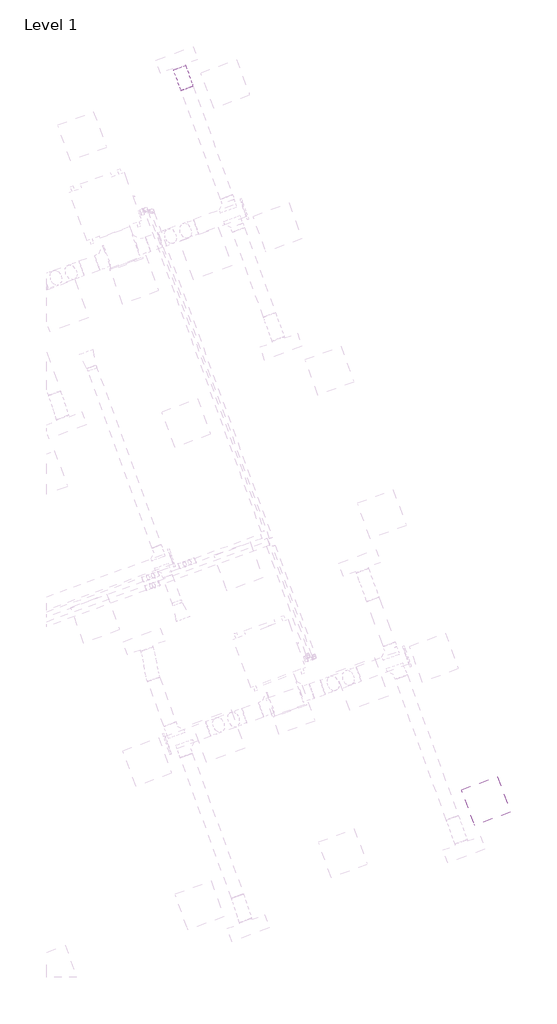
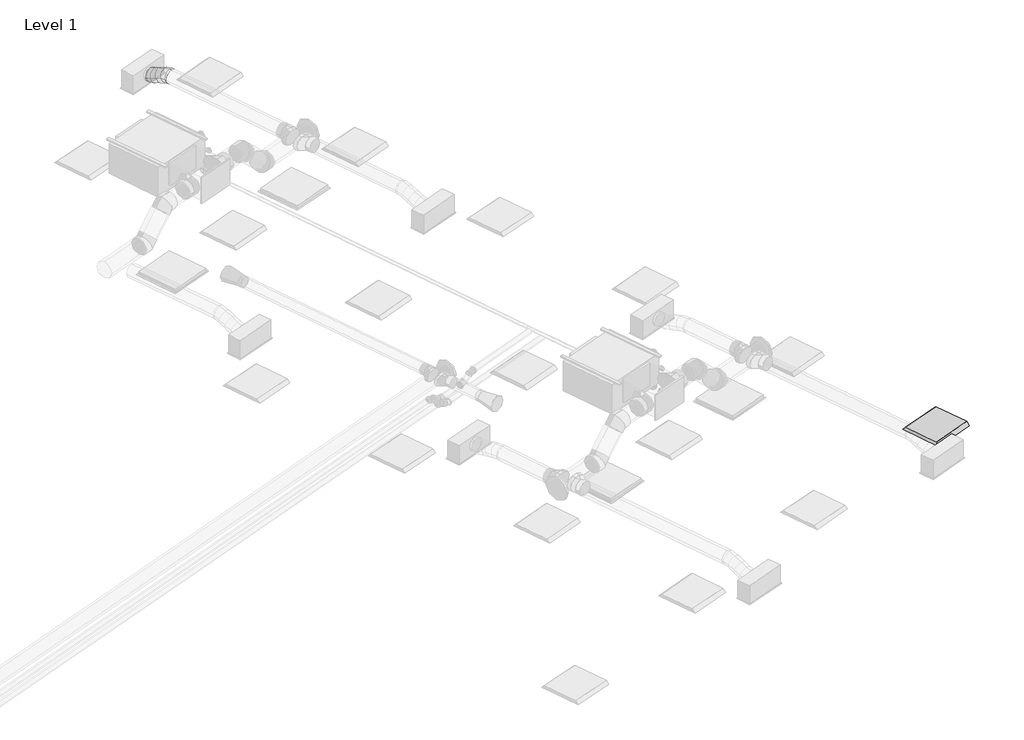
# One storey, part 30 of 30: 1 duct segment, 1 light fixture.
"""IFC4 building model written with IfcOpenShell, lengths in millimetres."""

import ifcopenshell
import ifcopenshell.guid

model = None  # the IFC model being written
_history = None  # IfcOwnerHistory: only IFC2X3 demands one
_inside = {}  # id of a spatial element -> (the spatial element, [elements in it])
_under = {}  # id of a project, library or spatial element -> (it, [spatial elements below it])
_declared = {}  # id of a project -> (the project, [libraries it declares])
_typed = {}  # id of a type object -> (the type object, [elements of that type])
_made_of = {}  # id of a material, layer set ... -> (it, [elements and type objects made of it])


def new_model(schema):
    """Start an empty IFC model of exactly this schema.

    Asked for "IFC4X3", IfcOpenShell would pick the latest addendum, in which some entities
    have other attributes; the version numbers below select the first issue.
    IFC2X3 requires an IfcOwnerHistory on every rooted entity: one is made here for all.
    """
    global model, _history
    if schema == "IFC4X3":
        model = ifcopenshell.file(schema_version=(4, 3, 0, 0))
    else:
        model = ifcopenshell.file(schema=schema)
    _inside.clear()
    _under.clear()
    _declared.clear()
    _typed.clear()
    _made_of.clear()
    _history = None
    if model.schema == "IFC2X3":
        org = make("IfcOrganization", Name="unknown")
        user = make(
            "IfcPersonAndOrganization",
            ThePerson=make("IfcPerson", FamilyName="unknown"),
            TheOrganization=org,
        )
        app = make(
            "IfcApplication",
            ApplicationDeveloper=org,
            Version="unknown",
            ApplicationFullName="unknown",
            ApplicationIdentifier="unknown",
        )
        _history = make(
            "IfcOwnerHistory",
            OwningUser=user,
            OwningApplication=app,
            ChangeAction="ADDED",
            CreationDate=0,
        )
    return model


def make(cls, **values):
    """One entity of the class cls with the attributes given. An attribute that is None is left unset."""
    return model.create_entity(
        cls, **{name: value for name, value in values.items() if value is not None}
    )


def rooted(cls, **values):
    """An entity with a GlobalId (a new one), such as an element, a storey or a relation."""
    return make(cls, GlobalId=ifcopenshell.guid.new(), OwnerHistory=_history, **values)


def si_unit(unit_type, name, prefix=None):
    """IfcSIUnit, for example si_unit("LENGTHUNIT", "METRE", prefix="MILLI")."""
    return make("IfcSIUnit", UnitType=unit_type, Prefix=prefix, Name=name)


def assignment(units):
    """IfcUnitAssignment: the units of a project."""
    return None if units is None else make("IfcUnitAssignment", Units=units)


def point(xyz):
    """IfcCartesianPoint."""
    return None if xyz is None else make("IfcCartesianPoint", Coordinates=xyz)


def direction(xyz):
    """IfcDirection."""
    return None if xyz is None else make("IfcDirection", DirectionRatios=xyz)


def frame(location, z_axis=None, x_axis=None):
    """IfcAxis2Placement3D, a coordinate frame: its origin and axes. An axis left out is left unset."""
    return make(
        "IfcAxis2Placement3D",
        Location=point(location),
        Axis=direction(z_axis),
        RefDirection=direction(x_axis),
    )


def origin():
    """The frame at (0, 0, 0) with its axes left unset."""
    return frame((0.0, 0.0, 0.0))


def place(relative_to, where):
    """IfcLocalPlacement: puts the frame where relative to a parent placement (None: the world)."""
    return make(
        "IfcLocalPlacement", PlacementRelTo=relative_to, RelativePlacement=where
    )


def context(
    kind, dimensions, precision=None, world=None, true_north=None, identifier=None
):
    """IfcGeometricRepresentationContext, for example the 3D "Model" context."""
    return make(
        "IfcGeometricRepresentationContext",
        ContextIdentifier=identifier,
        ContextType=kind,
        CoordinateSpaceDimension=dimensions,
        Precision=precision,
        WorldCoordinateSystem=world,
        TrueNorth=true_north,
    )


def project(units=None, contexts=None):
    """IfcProject with its units and contexts."""
    return rooted(
        "IfcProject",
        Name="project",
        RepresentationContexts=contexts,
        UnitsInContext=assignment(units),
    )


def spatial(cls, under=None, at=None, **own):
    """A site, building, storey or space (cls), placed at a placement, below another one or the project."""
    s = rooted(cls, ObjectPlacement=at, **own)
    if under is not None:
        _under.setdefault(under.id(), (under, []))[1].append(s)
    return s


def polyline(points):
    """IfcPolyline through the points."""
    return make("IfcPolyline", Points=[point(p) for p in points])


def circle_curve(where, radius):
    """IfcCircle in the frame where."""
    return make("IfcCircle", Position=where, Radius=radius)


def ellipse_curve(where, semi_axis1, semi_axis2):
    """IfcEllipse in the frame where."""
    return make(
        "IfcEllipse", Position=where, SemiAxis1=semi_axis1, SemiAxis2=semi_axis2
    )


def outline(outer, holes=None, kind="AREA"):
    """IfcArbitraryClosedProfileDef: a profile drawn as a closed curve; with holes, ...WithVoids."""
    if holes is None:
        return make("IfcArbitraryClosedProfileDef", ProfileType=kind, OuterCurve=outer)
    return make(
        "IfcArbitraryProfileDefWithVoids",
        ProfileType=kind,
        OuterCurve=outer,
        InnerCurves=holes,
    )


def extrude(swept, where, along, depth):
    """IfcExtrudedAreaSolid: the profile swept, set in the frame where, extruded along a direction by depth."""
    return make(
        "IfcExtrudedAreaSolid",
        SweptArea=swept,
        Position=where,
        ExtrudedDirection=direction(along),
        Depth=depth,
    )


def shape(context_of_items, identifier, shape_type, items):
    """IfcShapeRepresentation: the items that make up one representation, for example the "Body"."""
    return make(
        "IfcShapeRepresentation",
        ContextOfItems=context_of_items,
        RepresentationIdentifier=identifier,
        RepresentationType=shape_type,
        Items=items,
    )


def source(mapping_origin, context_of_items, identifier, shape_type, items):
    """IfcRepresentationMap: a shape defined once, which mapped items show again and again."""
    return make(
        "IfcRepresentationMap",
        MappingOrigin=mapping_origin,
        MappedRepresentation=shape(context_of_items, identifier, shape_type, items),
    )


def transform(
    local_origin,
    x_axis=None,
    y_axis=None,
    z_axis=None,
    scale=None,
    scale2=None,
    scale3=None,
    uniform=True,
):
    """IfcCartesianTransformationOperator3D, or its non-uniform kind. x_axis, y_axis, z_axis: its Axis1, 2, 3."""
    if uniform:
        return make(
            "IfcCartesianTransformationOperator3D",
            Axis1=direction(x_axis),
            Axis2=direction(y_axis),
            LocalOrigin=point(local_origin),
            Scale=scale,
            Axis3=direction(z_axis),
        )
    return make(
        "IfcCartesianTransformationOperator3DnonUniform",
        Axis1=direction(x_axis),
        Axis2=direction(y_axis),
        LocalOrigin=point(local_origin),
        Scale=scale,
        Axis3=direction(z_axis),
        Scale2=scale2,
        Scale3=scale3,
    )


def mapped(mapping_source, mapping_target):
    """IfcMappedItem: shows the shape of a source again, moved by a transform."""
    return make(
        "IfcMappedItem", MappingSource=mapping_source, MappingTarget=mapping_target
    )


def made_of(thing, what):
    """Note that an element or type object is made of a material, layer set ...; save() writes the relation."""
    if what is not None:
        _made_of.setdefault(what.id(), (what, []))[1].append(thing)
    return thing


def element(
    cls,
    number,
    at=None,
    inside=None,
    cuts=None,
    type_object=None,
    material=None,
    context=None,
    identifier="Body",
    shape_type=None,
    held_by="IfcProductDefinitionShape",
    body=None,
    shapes=None,
    **own,
):
    """One element of the class cls, such as IfcWall. Its Tag is "e" and its number.

    at: its placement. inside: the storey or other place that contains it. cuts: it is an
    opening in that element (IfcRelVoidsElement). A single representation is given by context,
    identifier, shape_type and body (its items); several are given by shapes. held_by: the class
    of the entity that holds the representations. save() writes the other relations.
    """
    e = rooted(cls, Tag="e%d" % number, ObjectPlacement=at, **own)
    if body is not None:
        shapes = [shape(context, identifier, shape_type, body)]
    if shapes is not None:
        e.Representation = make(held_by, Representations=shapes)
    if inside is not None:
        _inside.setdefault(inside.id(), (inside, []))[1].append(e)
    if cuts is not None:
        rooted(
            "IfcRelVoidsElement", RelatingBuildingElement=cuts, RelatedOpeningElement=e
        )
    if type_object is not None:
        _typed.setdefault(type_object.id(), (type_object, []))[1].append(e)
    return made_of(e, material)


def aggregate(whole, parts):
    """IfcRelAggregates: a whole, such as a stair, and the parts it consists of."""
    return rooted("IfcRelAggregates", RelatingObject=whole, RelatedObjects=parts)


def save(model, path):
    """Write the relations noted so far, then the file.

    IfcRelAggregates (storeys below a building ...), IfcRelContainedInSpatialStructure (elements
    in a storey), IfcRelDefinesByType, IfcRelAssociatesMaterial and IfcRelDeclares: one each for
    every whole, place, type object, material and project.
    """
    for whole, parts in _under.values():
        aggregate(whole, parts)
    for where, things in _inside.values():
        rooted(
            "IfcRelContainedInSpatialStructure",
            RelatedElements=things,
            RelatingStructure=where,
        )
    for kind, things in _typed.values():
        rooted("IfcRelDefinesByType", RelatedObjects=things, RelatingType=kind)
    for what, things in _made_of.values():
        rooted("IfcRelAssociatesMaterial", RelatedObjects=things, RelatingMaterial=what)
    for by, libraries in _declared.values():
        rooted("IfcRelDeclares", RelatingContext=by, RelatedDefinitions=libraries)
    model.write(path)


def plane_surface(at):
    """IfcPlane: the flat surface through the origin of the frame at, square to its z axis."""
    return make("IfcPlane", Position=at)


def cylinder_surface(at, radius):
    """IfcCylindricalSurface: all points at the distance radius from the z axis of the frame at."""
    return make("IfcCylindricalSurface", Position=at, Radius=radius)


def advanced_brep(points, edges, surfaces, faces):
    """IfcAdvancedBrep: a solid bounded by faces that lie on surfaces and meet in shared edges.

    An edge is (start, end): straight between two places in points (the first is 0);
    or (start, end, curve); or (start, end, curve, False) where it runs against its curve.
    A face is (place in surfaces, loops), or (place, loops, False) where it looks against
    its surface's normal. A loop lists edges by number (the first is 1), with a minus sign
    where the edge is run from its end to its start. The first loop is the outer one.
    """
    corners = [point(p) for p in points]
    vertices = [make("IfcVertexPoint", VertexGeometry=c) for c in corners]
    made = []
    for start, end, *more in edges:
        made.append(
            make(
                "IfcEdgeCurve",
                EdgeStart=vertices[start],
                EdgeEnd=vertices[end],
                EdgeGeometry=more[0] if more else make("IfcPolyline", Points=[corners[start], corners[end]]),
                SameSense=more[1] if len(more) > 1 else True,
            )
        )
    hull = []
    for where, loops, *sense in faces:
        bounds = []
        for j, loop in enumerate(loops):
            ring = [make("IfcOrientedEdge", EdgeElement=made[abs(k) - 1], Orientation=k > 0) for k in loop]
            bounds.append(
                make(
                    "IfcFaceOuterBound" if j == 0 else "IfcFaceBound",
                    Bound=make("IfcEdgeLoop", EdgeList=ring),
                    Orientation=True,
                )
            )
        hull.append(make("IfcAdvancedFace", Bounds=bounds, FaceSurface=surfaces[where], SameSense=sense[0] if sense else True))
    return make("IfcAdvancedBrep", Outer=make("IfcClosedShell", CfsFaces=hull))


def light_fixture_b730b5ca(model_context):
    return source(origin(), model_context, "Body", "SweptSolid", [
        extrude(outline(polyline([(-600.0, 0.0), (0.0, 0.0), (-45.0, -45.0), (-555.0, -45.0), (-600.0, 0.0)])), frame((0.0, 0.0, 0.0), z_axis=(1.0, 0.0, 0.0), x_axis=(0.0, 1.0, 0.0)), (0.0, 0.0, 1.0), 600.0),
    ])


model = new_model("IFC4")

# Units and contexts
model_context = context("Model", 3, world=origin())
ifc_project = project(units=[si_unit("LENGTHUNIT", "METRE", prefix="MILLI")], contexts=[model_context])

# Site, building, storey
site = spatial("IfcSite", under=ifc_project)
building = spatial("IfcBuilding", under=site)
storey = spatial("IfcBuildingStorey", under=building, Name="Level 1", Elevation=3900.0)

# Duct segment
placement = place(None, origin())
element("IfcDuctSegment", 1, ObjectType="Flex - Round", at=placement, inside=storey, context=model_context, shape_type="AdvancedBrep", body=[
    advanced_brep(
    [(59494.3812221, 24080.0654218, 6972.2088531), (59588.3504842, 24114.2674361, 6872.2088531), (59682.3197463, 24148.4694505, 6972.2088531), (59588.3504842, 24114.2674361, 7072.2088531), (59487.4660199, 24099.0647838, 6972.2088531), (59585.9225792, 24120.9380504, 6872.2088531), (59675.4045441, 24167.4688125, 6972.2088531), (59576.9479848, 24145.5955459, 7072.2088531), (59374.878762, 24408.3957326, 6854.4), (59468.8480241, 24442.5977469, 6954.4), (59562.8172862, 24476.7997613, 6854.4), (59468.8480241, 24442.5977469, 6754.4), (59463.8859154, 24163.8505885, 6953.8012198), (59569.6809447, 24165.5615745, 6859.5299419), (59651.8244396, 24232.2546171, 6953.8012198), (59546.0294103, 24230.5436311, 7048.0724978), (59434.6299921, 24244.2305772, 6913.3044266), (59543.2343262, 24238.2230615, 6822.9218599), (59622.5685162, 24312.6346059, 6913.3044266), (59513.9641821, 24318.6421216, 7003.6869932), (59405.3740687, 24324.610566, 6872.8076333), (59511.169098, 24326.321552, 6778.5363553), (59593.3125929, 24393.0145946, 6872.8076333), (59487.5175636, 24391.3036086, 6967.0789113), (59381.7939643, 24389.3963706, 6854.4), (59480.2505236, 24411.2696371, 6754.4), (59569.7324884, 24457.8003992, 6854.4), (59471.2759291, 24435.9271327, 6954.4)],
    [
        (0, 1, circle_curve(frame((59588.3504842, 24114.2674361, 6972.2088531), z_axis=(0.34202014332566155, -0.9396926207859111, 0.0), x_axis=(-0.9396926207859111, -0.34202014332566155, 0.0)), 100.0)),
        (1, 2, circle_curve(frame((59588.3504842, 24114.2674361, 6972.2088531), z_axis=(0.34202014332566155, -0.9396926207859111, 0.0), x_axis=(-0.9396926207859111, -0.34202014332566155, 0.0)), 100.0)),
        (2, 3, circle_curve(frame((59588.3504842, 24114.2674361, 6972.2088531), z_axis=(0.34202014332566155, -0.9396926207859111, 0.0), x_axis=(-0.9396926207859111, -0.34202014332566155, 0.0)), 100.0)),
        (3, 0, circle_curve(frame((59588.3504842, 24114.2674361, 6972.2088531), z_axis=(0.34202014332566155, -0.9396926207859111, 0.0), x_axis=(-0.9396926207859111, -0.34202014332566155, 0.0)), 100.0)),
        (0, 4),
        (4, 5, ellipse_curve(frame((59581.435282, 24133.2667982, 6972.2088531), z_axis=(0.33911394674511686, -0.931707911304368, 0.13008496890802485), x_axis=(0.04449167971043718, -0.12223988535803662, -0.9915028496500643)), 100.8569971, 100.0)),
        (5, 1),
        (5, 6, ellipse_curve(frame((59581.435282, 24133.2667982, 6972.2088531), z_axis=(0.33911394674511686, -0.931707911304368, 0.13008496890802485), x_axis=(0.04449167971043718, -0.12223988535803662, -0.9915028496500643)), 100.8569971, 100.0)),
        (6, 2),
        (6, 7, ellipse_curve(frame((59581.435282, 24133.2667982, 6972.2088531), z_axis=(0.33911394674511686, -0.931707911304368, 0.13008496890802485), x_axis=(0.04449167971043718, -0.12223988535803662, -0.9915028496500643)), 100.8569971, 100.0)),
        (7, 3),
        (7, 4, ellipse_curve(frame((59581.435282, 24133.2667982, 6972.2088531), z_axis=(0.33911394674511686, -0.931707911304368, 0.13008496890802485), x_axis=(0.04449167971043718, -0.12223988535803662, -0.9915028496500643)), 100.8569971, 100.0)),
        (8, 9, circle_curve(frame((59468.8480241, 24442.5977469, 6854.4), z_axis=(-0.3420201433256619, 0.9396926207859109, 0.0), x_axis=(-0.9396926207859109, -0.3420201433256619, 0.0)), 100.0)),
        (9, 10, circle_curve(frame((59468.8480241, 24442.5977469, 6854.4), z_axis=(-0.3420201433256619, 0.9396926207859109, 0.0), x_axis=(-0.9396926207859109, -0.3420201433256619, 0.0)), 100.0)),
        (10, 11, circle_curve(frame((59468.8480241, 24442.5977469, 6854.4), z_axis=(-0.3420201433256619, 0.9396926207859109, 0.0), x_axis=(-0.9396926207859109, -0.3420201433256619, 0.0)), 100.0)),
        (11, 8, circle_curve(frame((59468.8480241, 24442.5977469, 6854.4), z_axis=(-0.3420201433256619, 0.9396926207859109, 0.0), x_axis=(-0.9396926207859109, -0.3420201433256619, 0.0)), 100.0)),
        (4, 12),
        (12, 13, ellipse_curve(frame((59557.8551775, 24198.0526028, 6953.8012198), z_axis=(0.32110349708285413, -0.8822246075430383, 0.3443432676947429), x_axis=(0.11777233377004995, -0.3235768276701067, -0.938843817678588)), 100.4120986, 100.0)),
        (13, 5),
        (13, 14, ellipse_curve(frame((59557.8551775, 24198.0526028, 6953.8012198), z_axis=(0.32110349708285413, -0.8822246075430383, 0.3443432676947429), x_axis=(0.11777233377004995, -0.3235768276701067, -0.938843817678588)), 100.4120986, 100.0)),
        (14, 6),
        (14, 15, ellipse_curve(frame((59557.8551775, 24198.0526028, 6953.8012198), z_axis=(0.32110349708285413, -0.8822246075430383, 0.3443432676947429), x_axis=(0.11777233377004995, -0.3235768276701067, -0.938843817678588)), 100.4120986, 100.0)),
        (15, 7),
        (15, 12, ellipse_curve(frame((59557.8551775, 24198.0526028, 6953.8012198), z_axis=(0.32110349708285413, -0.8822246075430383, 0.3443432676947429), x_axis=(0.11777233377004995, -0.3235768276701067, -0.938843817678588)), 100.4120986, 100.0)),
        (12, 16),
        (16, 17, circle_curve(frame((59528.5992542, 24278.4325915, 6913.3044266), z_axis=(0.3091265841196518, -0.8493183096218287, 0.42790088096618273), x_axis=(-0.9396926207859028, -0.3420201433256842, 0.0)), 100.0)),
        (17, 13),
        (17, 18, circle_curve(frame((59528.5992542, 24278.4325915, 6913.3044266), z_axis=(0.3091265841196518, -0.8493183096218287, 0.42790088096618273), x_axis=(-0.9396926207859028, -0.3420201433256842, 0.0)), 100.0)),
        (18, 14),
        (18, 19, circle_curve(frame((59528.5992542, 24278.4325915, 6913.3044266), z_axis=(0.3091265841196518, -0.8493183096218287, 0.42790088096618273), x_axis=(-0.9396926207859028, -0.3420201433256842, 0.0)), 100.0)),
        (19, 15),
        (19, 16, circle_curve(frame((59528.5992542, 24278.4325915, 6913.3044266), z_axis=(0.3091265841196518, -0.8493183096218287, 0.42790088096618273), x_axis=(-0.9396926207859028, -0.3420201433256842, 0.0)), 100.0)),
        (16, 20),
        (20, 21, ellipse_curve(frame((59499.3433308, 24358.8125803, 6872.8076333), z_axis=(0.3211034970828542, -0.8822246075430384, 0.3443432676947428), x_axis=(-0.11777233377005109, 0.3235768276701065, 0.9388438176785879)), 100.4120986, 100.0)),
        (21, 17),
        (21, 22, ellipse_curve(frame((59499.3433308, 24358.8125803, 6872.8076333), z_axis=(0.3211034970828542, -0.8822246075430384, 0.3443432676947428), x_axis=(-0.11777233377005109, 0.3235768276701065, 0.9388438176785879)), 100.4120986, 100.0)),
        (22, 18),
        (22, 23, ellipse_curve(frame((59499.3433308, 24358.8125803, 6872.8076333), z_axis=(0.3211034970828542, -0.8822246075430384, 0.3443432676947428), x_axis=(-0.11777233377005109, 0.3235768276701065, 0.9388438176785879)), 100.4120986, 100.0)),
        (23, 19),
        (23, 20, ellipse_curve(frame((59499.3433308, 24358.8125803, 6872.8076333), z_axis=(0.3211034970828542, -0.8822246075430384, 0.3443432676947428), x_axis=(-0.11777233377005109, 0.3235768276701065, 0.9388438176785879)), 100.4120986, 100.0)),
        (20, 24),
        (24, 25, ellipse_curve(frame((59475.7632263, 24423.5983849, 6854.4), z_axis=(0.33911394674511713, -0.931707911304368, 0.1300849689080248), x_axis=(-0.04449167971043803, 0.12223988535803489, 0.9915028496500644)), 100.8569971, 100.0)),
        (25, 21),
        (25, 26, ellipse_curve(frame((59475.7632263, 24423.5983849, 6854.4), z_axis=(0.33911394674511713, -0.931707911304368, 0.1300849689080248), x_axis=(-0.04449167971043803, 0.12223988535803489, 0.9915028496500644)), 100.8569971, 100.0)),
        (26, 22),
        (26, 27, ellipse_curve(frame((59475.7632263, 24423.5983849, 6854.4), z_axis=(0.33911394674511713, -0.931707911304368, 0.1300849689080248), x_axis=(-0.04449167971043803, 0.12223988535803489, 0.9915028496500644)), 100.8569971, 100.0)),
        (27, 23),
        (27, 24, ellipse_curve(frame((59475.7632263, 24423.5983849, 6854.4), z_axis=(0.33911394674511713, -0.931707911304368, 0.1300849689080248), x_axis=(-0.04449167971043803, 0.12223988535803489, 0.9915028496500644)), 100.8569971, 100.0)),
        (24, 8),
        (11, 25),
        (10, 26),
        (9, 27),
    ],
    [
        plane_surface(frame((59588.3504842, 24114.2674361, 7072.2088531), z_axis=(0.3420201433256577, -0.9396926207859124, 0.0), x_axis=(0.9396926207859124, 0.3420201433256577, 0.0))),
        cylinder_surface(frame((59588.3504842, 24114.2674361, 6972.2088531), z_axis=(0.34202014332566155, -0.9396926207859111, 0.0), x_axis=(-0.9396926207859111, -0.34202014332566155, 0.0)), 100.0),
        plane_surface(frame((59468.8480241, 24442.5977469, 6954.4), z_axis=(-0.3420201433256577, 0.9396926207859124, 0.0), x_axis=(0.9396926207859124, 0.3420201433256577, 0.0))),
        cylinder_surface(frame((59581.435282, 24133.2667982, 6972.2088531), z_axis=(0.3304447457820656, -0.90788947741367, 0.25795923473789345), x_axis=(-0.939692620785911, -0.34202014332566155, 0.0)), 100.0),
        cylinder_surface(frame((59557.8551775, 24198.0526028, 6953.8012198), z_axis=(0.3091265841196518, -0.8493183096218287, 0.42790088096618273), x_axis=(-0.9396926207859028, -0.3420201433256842, 0.0)), 100.0),
        cylinder_surface(frame((59528.5992542, 24278.4325915, 6913.3044266), z_axis=(0.3091265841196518, -0.8493183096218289, 0.42790088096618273), x_axis=(-0.9396926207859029, -0.3420201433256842, 0.0)), 100.0),
        cylinder_surface(frame((59499.3433308, 24358.8125803, 6872.8076333), z_axis=(0.3304447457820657, -0.9078894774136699, 0.25795923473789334), x_axis=(-0.939692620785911, -0.34202014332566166, 0.0)), 100.0),
        cylinder_surface(frame((59475.7632263, 24423.5983849, 6854.4), z_axis=(0.3420201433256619, -0.9396926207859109, 0.0), x_axis=(-0.9396926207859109, -0.3420201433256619, 0.0)), 100.0),
    ],
    [
        (0, [[1, 2, 3, 4]]),
        (1, [[-1, 5, 6, 7]]),
        (1, [[-2, -7, 8, 9]]),
        (1, [[-3, -9, 10, 11]]),
        (1, [[-4, -11, 12, -5]]),
        (2, [[13, 14, 15, 16]]),
        (3, [[-6, 17, 18, 19]]),
        (3, [[-8, -19, 20, 21]]),
        (3, [[-10, -21, 22, 23]]),
        (3, [[-12, -23, 24, -17]]),
        (4, [[-18, 25, 26, 27]]),
        (4, [[-20, -27, 28, 29]]),
        (4, [[-22, -29, 30, 31]]),
        (4, [[-24, -31, 32, -25]]),
        (5, [[-26, 33, 34, 35]]),
        (5, [[-28, -35, 36, 37]]),
        (5, [[-30, -37, 38, 39]]),
        (5, [[-32, -39, 40, -33]]),
        (6, [[-34, 41, 42, 43]]),
        (6, [[-36, -43, 44, 45]]),
        (6, [[-38, -45, 46, 47]]),
        (6, [[-40, -47, 48, -41]]),
        (7, [[-42, 49, -16, 50]]),
        (7, [[-44, -50, -15, 51]]),
        (7, [[-46, -51, -14, 52]]),
        (7, [[-48, -52, -13, -49]]),
    ],
),
])

# Light fixture
light_fixture_shape = light_fixture_b730b5ca(model_context)
element("IfcLightFixture", 2, ObjectType="ELEKTRA EM Recessed Lighting Fixture : 24\" x 24\" - 230", at=placement, inside=storey, context=model_context, shape_type="MappedRepresentation", body=[
    mapped(light_fixture_shape, transform((64113.8399188, 12523.5202115, 6700.0), x_axis=(0.9396926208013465, 0.342020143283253, 0.0), y_axis=(0.342020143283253, -0.9396926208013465, 0.0), z_axis=(0.0, 0.0, -1.0))),
])

save(model, "model.ifc")
